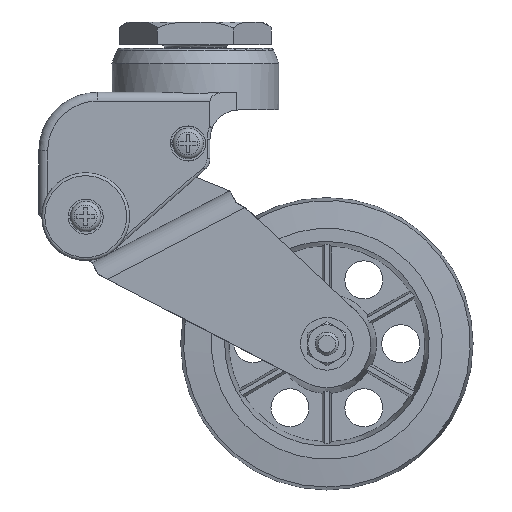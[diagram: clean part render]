
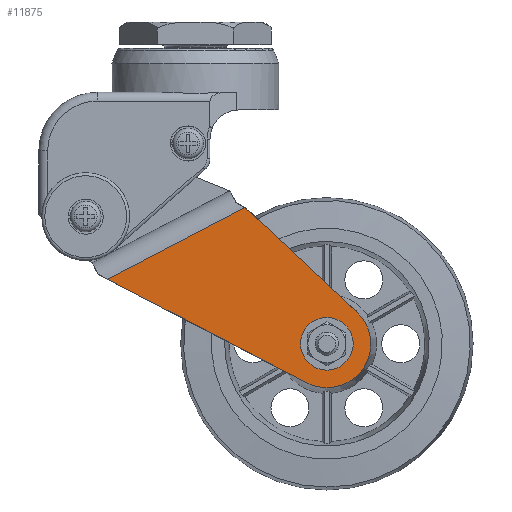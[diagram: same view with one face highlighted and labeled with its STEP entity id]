
A CAD part, front view. The second image highlights one B-rep face of the part: STEP entity #11875.
In plain terms, the highlighted planar face has unit normal (0, -1, 0).
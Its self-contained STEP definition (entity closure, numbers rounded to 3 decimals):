
#4828=CARTESIAN_POINT('',(56.5,-68.,-68.5));
#4829=VERTEX_POINT('',#4828);
#4830=CARTESIAN_POINT('',(47.5,-68.,-68.5));
#4831=DIRECTION('',(0.0,1.0,0.0));
#4832=DIRECTION('',(-1.0,0.0,0.0));
#4833=AXIS2_PLACEMENT_3D('',#4830,#4831,#4832);
#4834=CIRCLE('',#4833,9.0);
#4835=EDGE_CURVE('',#4829,#4829,#4834,.T.);
#10530=CARTESIAN_POINT('',(57.737,-68.,-57.536));
#10531=VERTEX_POINT('',#10530);
#10538=CARTESIAN_POINT('',(40.583,-68.,-81.81));
#10539=VERTEX_POINT('',#10538);
#10540=CARTESIAN_POINT('',(47.5,-68.,-68.5));
#10541=DIRECTION('',(0.0,-1.0,0.0));
#10542=DIRECTION('',(-1.0,0.0,0.0));
#10543=AXIS2_PLACEMENT_3D('',#10540,#10541,#10542);
#10544=CIRCLE('',#10543,15.0);
#10545=EDGE_CURVE('',#10539,#10531,#10544,.T.);
#10579=CARTESIAN_POINT('',(20.137,-68.,-22.428));
#10580=VERTEX_POINT('',#10579);
#10587=CARTESIAN_POINT('',(57.737,-68.,-57.536));
#10588=DIRECTION('',(-0.731,0.0,0.682));
#10589=VECTOR('',#10588,51.443);
#10590=LINE('',#10587,#10589);
#10591=EDGE_CURVE('',#10531,#10580,#10590,.T.);
#11663=CARTESIAN_POINT('',(-27.465,-68.,-46.445));
#11664=VERTEX_POINT('',#11663);
#11672=CARTESIAN_POINT('',(19.477,-68.,-21.959));
#11673=VERTEX_POINT('',#11672);
#11674=CARTESIAN_POINT('',(-27.465,-68.,-46.445));
#11675=DIRECTION('',(0.887,0.0,0.462));
#11676=VECTOR('',#11675,52.944);
#11677=LINE('',#11674,#11676);
#11678=EDGE_CURVE('',#11664,#11673,#11677,.T.);
#11830=CARTESIAN_POINT('',(19.578,-68.,-22.016));
#11831=VERTEX_POINT('',#11830);
#11838=CARTESIAN_POINT('',(18.089,-68.,-24.621));
#11839=DIRECTION('',(0.0,1.0,0.0));
#11840=DIRECTION('',(0.593,0.0,0.805));
#11841=AXIS2_PLACEMENT_3D('',#11838,#11839,#11840);
#11842=CIRCLE('',#11841,3.0);
#11843=EDGE_CURVE('',#11831,#10580,#11842,.T.);
#11849=CARTESIAN_POINT('',(16.381,-68.,-20.19));
#11850=DIRECTION('',(0.0,1.0,0.0));
#11851=DIRECTION('',(-1.0,0.0,0.0));
#11852=AXIS2_PLACEMENT_3D('',#11849,#11850,#11851);
#11853=PLANE('',#11852);
#11854=ORIENTED_EDGE('',*,*,#11843,.F.);
#11855=CARTESIAN_POINT('',(19.578,-68.,-22.016));
#11856=DIRECTION('',(-0.868,0.0,0.496));
#11857=VECTOR('',#11856,0.116);
#11858=LINE('',#11855,#11857);
#11859=EDGE_CURVE('',#11831,#11673,#11858,.T.);
#11860=ORIENTED_EDGE('',*,*,#11859,.T.);
#11861=ORIENTED_EDGE('',*,*,#11678,.F.);
#11862=CARTESIAN_POINT('',(-27.465,-68.,-46.445));
#11863=DIRECTION('',(0.887,0.0,-0.461));
#11864=VECTOR('',#11863,76.689);
#11865=LINE('',#11862,#11864);
#11866=EDGE_CURVE('',#11664,#10539,#11865,.T.);
#11867=ORIENTED_EDGE('',*,*,#11866,.T.);
#11868=ORIENTED_EDGE('',*,*,#10545,.T.);
#11869=ORIENTED_EDGE('',*,*,#10591,.T.);
#11870=EDGE_LOOP('',(#11854,#11860,#11861,#11867,#11868,#11869));
#11871=FACE_OUTER_BOUND('',#11870,.T.);
#11872=ORIENTED_EDGE('',*,*,#4835,.T.);
#11873=EDGE_LOOP('',(#11872));
#11874=FACE_BOUND('',#11873,.T.);
#11875=ADVANCED_FACE('',(#11871,#11874),#11853,.F.);
